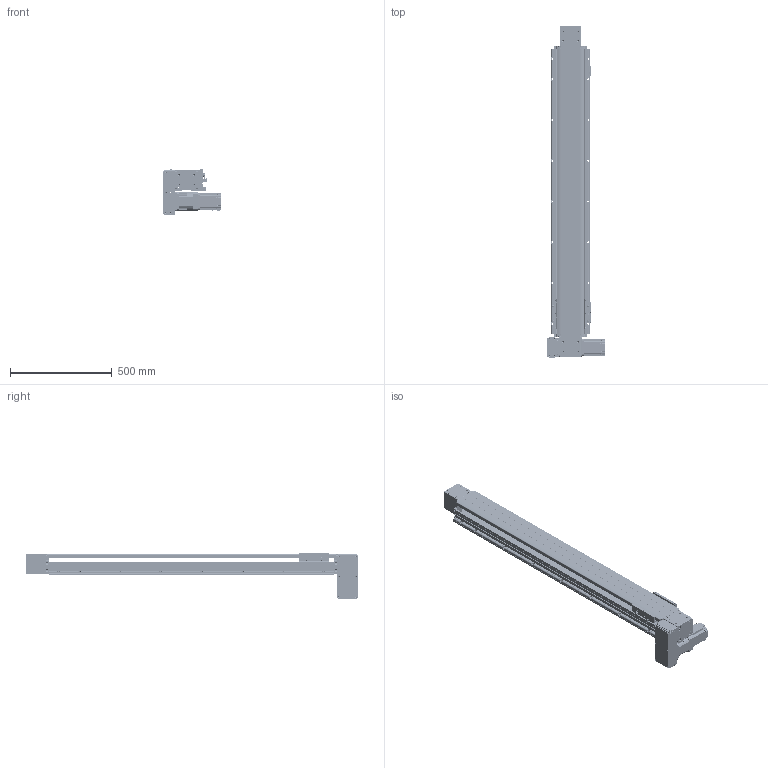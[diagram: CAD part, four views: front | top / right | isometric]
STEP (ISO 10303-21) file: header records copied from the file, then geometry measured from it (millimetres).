
FILE_DESCRIPTION(/* description */ (''),/* implementation_level */ '2;1');
FILE_NAME(/* name */ '\\192.168.0.160\disk1\HAN SHIN Master\B-설계부문\C-표준\B-2024년\BC02-표준도면\+로봇 개선표준도면\홈페이지 표준 도면\홈페이지 최종 작업 폴더\3D\HB\HB160-DL7G-N-1200-R.stp',/* time_stamp */ '2025-01-14T09:11:30+09:00',/* author */ ('user'),/* organization */ (''),/* preprocessor_version */ 'ST-DEVELOPER v18.1',/* originating_system */ 'Autodesk Inventor 2022',/* authorisation */ '');
FILE_SCHEMA (('AUTOMOTIVE_DESIGN { 1 0 10303 214 3 1 1 }'));
Products named in the file (41): HSB160-DL7G-N-0500-R; BASE; HSB160 TABLE (TEST); FORNT HOUSUNG-1 (Connecting); UPCOVER; HSB160 COVER-1; REAR HOUSUNG-1---; HSB160 REAR SHAFT-2; REAR SHAFT--2; 6004ZZ; 6004ZZ Outer ring; 6004ZZ Shield1; 6004ZZ Inner ring; 6004ZZ Ball; 6004ZZ Shield2; STOPPER3; TENSION PLATE; HSB160 ARC COVER; hsr_ftht_A-M6F_grease_nipple_joint; NIPPLE CAP(신규); hg-kr73_; PGX90-H-1_3; HSB160 BEARING OVER; HSB160 END COVER; HSB160 SHAFT-1; 6206ZZ; 6206ZZ Outer ring; 6206ZZ Shield1; 6206ZZ Inner ring; 6206ZZ Ball; 6206ZZ Shield2; HR120 SENSOR DOG; SENSOR BRK(EE-SX674A); EE_SX674A; D MOTOR PLATE ASSY; HSB160 D MOTOR PLATE; HR160 400W LR BELT COVER; 750W MOTOR PLATE; HR180 ACRYL COVER - 1; HR180 ACRYL COVER - 1_1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
Assembly tree (85 placements, depth 3):
  HSB160-DL7G-N-0500-R
    BASE
    HSB160 TABLE (TEST)
    FORNT HOUSUNG-1 (Connecting)
    UPCOVER
    HSB160 COVER-1  x2
    REAR HOUSUNG-1---
    6004ZZ  x2
      6004ZZ Outer ring
      6004ZZ Shield1
      6004ZZ Inner ring
      6004ZZ Ball
      6004ZZ Shield2
    HSB160 REAR SHAFT-2
    REAR SHAFT--2
    TENSION PLATE  x2
    HSB160 ARC COVER  x4
    STOPPER3  x4
    hsr_ftht_A-M6F_grease_nipple_joint  x4
    NIPPLE CAP(신규)  x4
    hg-kr73_
    PGX90-H-1_3
    HSB160 BEARING OVER
    HSB160 END COVER
    6206ZZ  x2
      6206ZZ Outer ring
      6206ZZ Shield1
      6206ZZ Inner ring
      6206ZZ Ball
      6206ZZ Shield2
    HSB160 SHAFT-1
    HR120 SENSOR DOG
    SENSOR BRK(EE-SX674A)  x3
    EE_SX674A  x3
    D MOTOR PLATE ASSY
      HSB160 D MOTOR PLATE
      HR160 400W LR BELT COVER
      750W MOTOR PLATE
      HR180 ACRYL COVER - 1_2  x2
      HR180 ACRYL COVER - 1
      HR180 ACRYL COVER - 1_1
Bounding box: 284.5 x 1628.5 x 226.5 mm (x, y, z)
Volume: 10108910.4 mm3; surface area: 2448972.9 mm2
Topology: 129 solids, 131 shells, 6398 faces, 17545 edges, 11538 vertices
Faces by surface type: plane 4492, cylinder 1367, cone 367, sphere 88, torus 59, bspline 25
Full cylindrical faces by diameter (mm): 2.013 x2, 2.459 x54, 3 x20, 3.242 x42, 3.4 x22, 3.5 x6, 4.134 x18, 4.2 x4, 4.5 x40, 4.917 x74, 5 x44, 5.1 x1, 5.5 x25, 5.6 x4, 5.9 x4, 6 x21, 6.5 x9, 6.6 x18, 6.8 x9, 7 x32, 7.6 x4, 8 x5, 8.376 x16, 8.433 x2, 9 x4, 9.5 x31, 10 x5, 11 x28, 15 x8, 18.5 x2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
Entity records: 115973 total; most frequent: CARTESIAN_POINT 22038, DIRECTION 19250, ORIENTED_EDGE 18694, EDGE_CURVE 9347, AXIS2_PLACEMENT_3D 6525, LINE 6200, VECTOR 6200, VERTEX_POINT 6179
